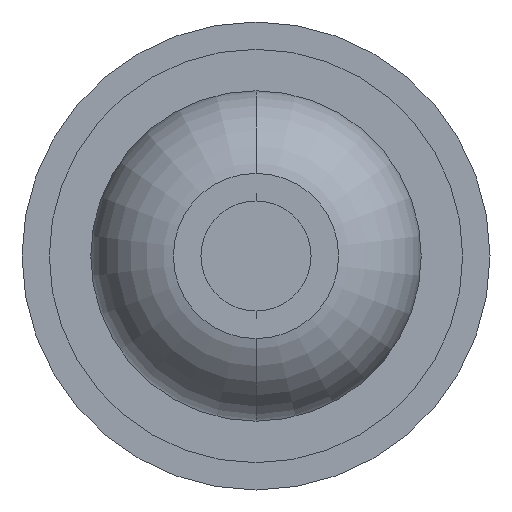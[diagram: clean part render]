
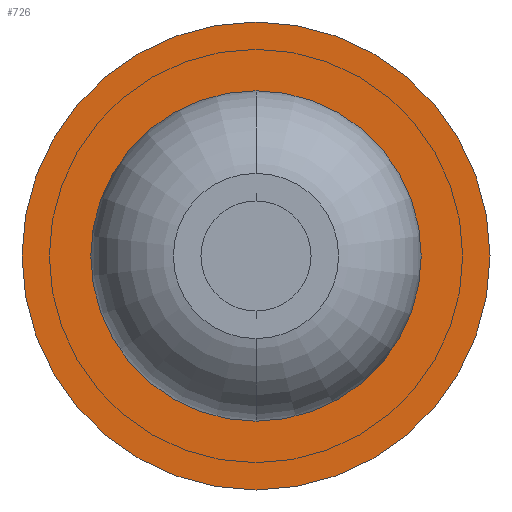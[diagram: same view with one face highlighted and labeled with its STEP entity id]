
A CAD part, front view. The second image highlights one B-rep face of the part: STEP entity #726.
In plain terms, the highlighted planar face has unit normal (0, -1, 0).
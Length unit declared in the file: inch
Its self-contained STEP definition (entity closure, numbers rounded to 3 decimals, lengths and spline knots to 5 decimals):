
#53 = VERTEX_POINT ( 'NONE', #720 ) ;
#82 = CARTESIAN_POINT ( 'NONE',  ( 0., 97.04724, 0. ) ) ;
#83 = PLANE ( 'NONE',  #1478 ) ;
#89 = CARTESIAN_POINT ( 'NONE',  ( 0., 97.04724, 0.09843 ) ) ;
#139 = ORIENTED_EDGE ( 'NONE', *, *, #279, .F. ) ;
#163 = DIRECTION ( 'NONE',  ( 0., 1., 0. ) ) ;
#269 = CIRCLE ( 'NONE', #527, 3.345 ) ;
#279 = EDGE_CURVE ( 'NONE', #1846, #473, #269, .T. ) ;
#473 = VERTEX_POINT ( 'NONE', #2367 ) ;
#510 = DIRECTION ( 'NONE',  ( 0., 1., 0. ) ) ;
#527 = AXIS2_PLACEMENT_3D ( 'NONE', #984, #1395, #2225 ) ;
#622 = AXIS2_PLACEMENT_3D ( 'NONE', #1359, #956, #1770 ) ;
#706 = CIRCLE ( 'NONE', #1558, 0.09843 ) ;
#720 = CARTESIAN_POINT ( 'NONE',  ( 0., 97.04724, -0.09843 ) ) ;
#726 = ADVANCED_FACE ( 'NONE', ( #2164, #1921 ), #83, .F. ) ;
#903 = DIRECTION ( 'NONE',  ( 0., 0., 1. ) ) ;
#956 = DIRECTION ( 'NONE',  ( 0., 1., 0. ) ) ;
#984 = CARTESIAN_POINT ( 'NONE',  ( 0., 97.04724, 0. ) ) ;
#1031 = EDGE_LOOP ( 'NONE', ( #139, #1149 ) ) ;
#1116 = EDGE_CURVE ( 'NONE', #2116, #53, #1292, .T. ) ;
#1142 = CARTESIAN_POINT ( 'NONE',  ( 0., 97.04724, 0. ) ) ;
#1149 = ORIENTED_EDGE ( 'NONE', *, *, #1892, .F. ) ;
#1171 = ORIENTED_EDGE ( 'NONE', *, *, #1116, .T. ) ;
#1175 = AXIS2_PLACEMENT_3D ( 'NONE', #1725, #1294, #1918 ) ;
#1292 = CIRCLE ( 'NONE', #1175, 0.09843 ) ;
#1294 = DIRECTION ( 'NONE',  ( 0., 1., 0. ) ) ;
#1359 = CARTESIAN_POINT ( 'NONE',  ( 0., 97.04724, 0. ) ) ;
#1384 = ORIENTED_EDGE ( 'NONE', *, *, #1775, .T. ) ;
#1395 = DIRECTION ( 'NONE',  ( 0., 1., 0. ) ) ;
#1478 = AXIS2_PLACEMENT_3D ( 'NONE', #1142, #163, #2612 ) ;
#1558 = AXIS2_PLACEMENT_3D ( 'NONE', #82, #510, #903 ) ;
#1708 = EDGE_LOOP ( 'NONE', ( #1384, #1171 ) ) ;
#1725 = CARTESIAN_POINT ( 'NONE',  ( 0., 97.04724, 0. ) ) ;
#1770 = DIRECTION ( 'NONE',  ( 0., 0., 1. ) ) ;
#1775 = EDGE_CURVE ( 'NONE', #53, #2116, #706, .T. ) ;
#1819 = CIRCLE ( 'NONE', #622, 3.345 ) ;
#1846 = VERTEX_POINT ( 'NONE', #2029 ) ;
#1892 = EDGE_CURVE ( 'NONE', #473, #1846, #1819, .T. ) ;
#1918 = DIRECTION ( 'NONE',  ( 0., 0., 1. ) ) ;
#1921 = FACE_OUTER_BOUND ( 'NONE', #1031, .T. ) ;
#2029 = CARTESIAN_POINT ( 'NONE',  ( 0., 97.04724, -3.345 ) ) ;
#2116 = VERTEX_POINT ( 'NONE', #89 ) ;
#2164 = FACE_BOUND ( 'NONE', #1708, .T. ) ;
#2225 = DIRECTION ( 'NONE',  ( 0., 0., 1. ) ) ;
#2367 = CARTESIAN_POINT ( 'NONE',  ( 0., 97.04724, 3.345 ) ) ;
#2612 = DIRECTION ( 'NONE',  ( 0., 0., 1. ) ) ;
